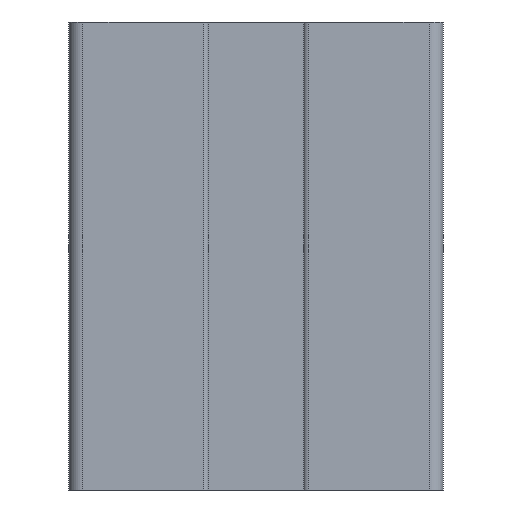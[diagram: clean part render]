
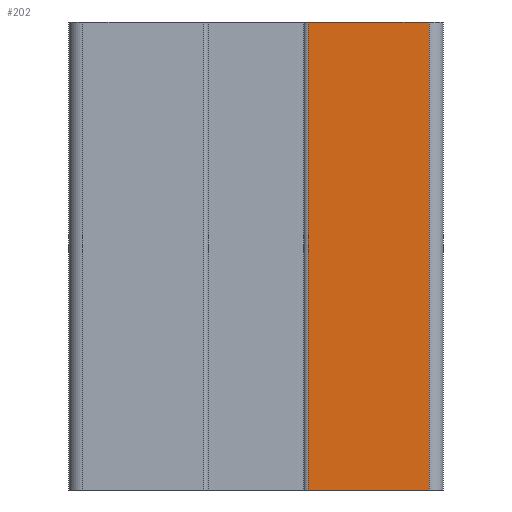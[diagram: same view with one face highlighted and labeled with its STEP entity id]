
A CAD part, left-side view. The second image highlights one B-rep face of the part: STEP entity #202.
In plain terms, the highlighted planar face has unit normal (-1, 0, 0).
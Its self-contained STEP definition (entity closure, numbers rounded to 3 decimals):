
#202=ADVANCED_FACE('',(#455),#456,.F.);
#455=FACE_OUTER_BOUND('',#756,.T.);
#456=PLANE('',#757);
#756=EDGE_LOOP('',(#1343,#1344,#1345,#1346));
#757=AXIS2_PLACEMENT_3D('',#1347,#1348,#1349);
#1343=ORIENTED_EDGE('',*,*,#1996,.T.);
#1344=ORIENTED_EDGE('',*,*,#2107,.F.);
#1345=ORIENTED_EDGE('',*,*,#2141,.F.);
#1346=ORIENTED_EDGE('',*,*,#2142,.T.);
#1347=CARTESIAN_POINT('',(0.,14.4,50.0));
#1348=DIRECTION('',(1.0,0.0,-0.0));
#1349=DIRECTION('',(0.0,0.0,1.0));
#1996=EDGE_CURVE('',#2474,#2472,#2475,.T.);
#2107=EDGE_CURVE('',#2640,#2472,#2642,.T.);
#2141=EDGE_CURVE('',#2690,#2640,#2691,.T.);
#2142=EDGE_CURVE('',#2690,#2474,#2692,.T.);
#2472=VERTEX_POINT('',#3101);
#2474=VERTEX_POINT('',#3103);
#2475=LINE('',#3104,#3105);
#2640=VERTEX_POINT('',#3335);
#2642=LINE('',#3337,#3338);
#2690=VERTEX_POINT('',#3406);
#2691=LINE('',#3407,#3408);
#2692=LINE('',#3409,#3410);
#3101=CARTESIAN_POINT('',(0.,1.5,0.0));
#3103=CARTESIAN_POINT('',(0.,14.4,0.0));
#3104=CARTESIAN_POINT('',(0.,14.4,0.0));
#3105=VECTOR('',#3812,1.0);
#3335=CARTESIAN_POINT('',(0.,1.5,50.0));
#3337=CARTESIAN_POINT('',(0.,1.5,50.0));
#3338=VECTOR('',#3932,1.0);
#3406=CARTESIAN_POINT('',(0.,14.4,50.0));
#3407=CARTESIAN_POINT('',(0.,14.4,50.0));
#3408=VECTOR('',#3962,1.0);
#3409=CARTESIAN_POINT('',(0.,14.4,50.0));
#3410=VECTOR('',#3963,1.0);
#3812=DIRECTION('',(0.0,-1.0,0.0));
#3932=DIRECTION('',(0.0,0.0,-1.0));
#3962=DIRECTION('',(0.0,-1.0,0.0));
#3963=DIRECTION('',(0.0,0.0,-1.0));
